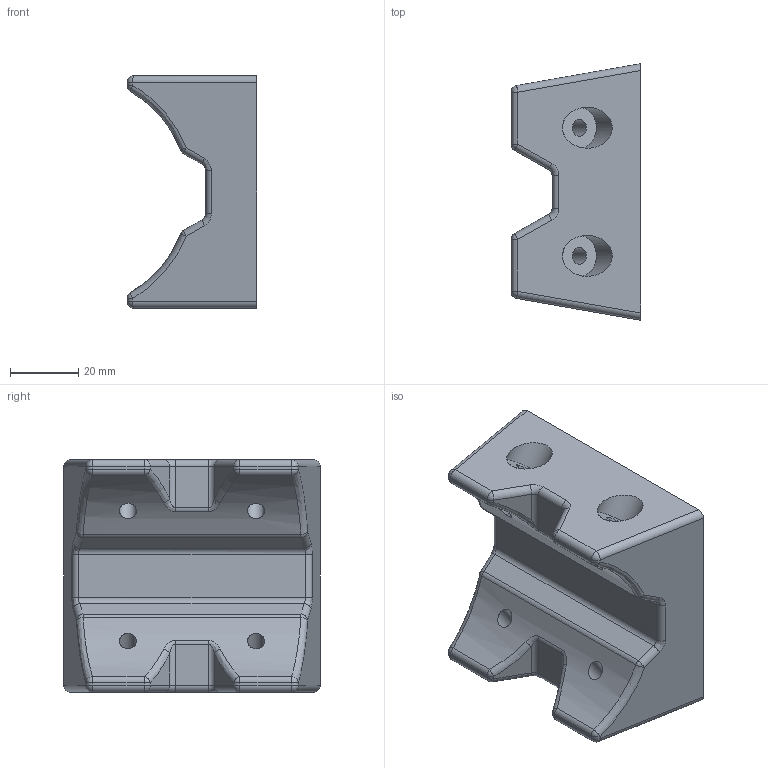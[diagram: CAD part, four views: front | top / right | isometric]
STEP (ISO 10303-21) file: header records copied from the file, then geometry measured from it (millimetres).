
FILE_DESCRIPTION(/* description */ (''),/* implementation_level */ '2;1');
FILE_NAME(/* name */ 'C:\Users\Callum\The Trustee for INKSTONE UNIT TRUST\GRP Australia - Documents\8 Drawings\Handrails\3D Models\Handrail Fittings STEP\MH-KPS20.stp',/* time_stamp */ '2022-09-15T14:00:07+10:00',/* author */ ('Callum'),/* organization */ (''),/* preprocessor_version */ 'ST-DEVELOPER v18.1',/* originating_system */ 'Autodesk Inventor 2022',/* authorisation */ '');
FILE_SCHEMA (('AUTOMOTIVE_DESIGN { 1 0 10303 214 3 1 1 }'));
Length unit declared in the file: millimetre
Products named in the file (1): 20-29-KPB-01-c
Bounding box: 38 x 75 x 68 mm (x, y, z)
Volume: 113166.3 mm3; surface area: 19990.4 mm2
Topology: 1 solids, 1 shells, 118 faces, 250 edges, 138 vertices
Faces by surface type: cylinder 56, plane 22, sphere 20, bspline 16, torus 4
Full cylindrical faces by diameter (mm): 5 x4
Entity records: 3667 total; most frequent: CARTESIAN_POINT 1065, DIRECTION 582, ORIENTED_EDGE 500, EDGE_CURVE 250, AXIS2_PLACEMENT_3D 243, VERTEX_POINT 138, EDGE_LOOP 130, FACE_OUTER_BOUND 118
